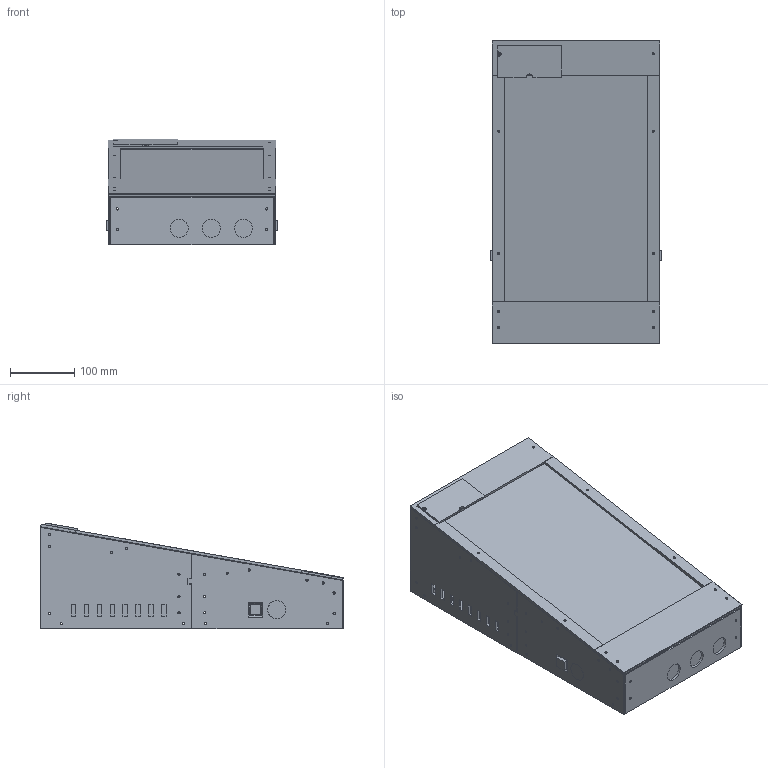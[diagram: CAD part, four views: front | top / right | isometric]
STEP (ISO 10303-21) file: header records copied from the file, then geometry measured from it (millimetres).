
FILE_DESCRIPTION(('Open CASCADE Model'),'2;1');
FILE_NAME('Open CASCADE Shape Model','2026-11-07T15:07:24',('Author'),( 'Open CASCADE'),'Open CASCADE STEP processor 7.8','Open CASCADE 7.8' ,'Unknown');
FILE_SCHEMA(('AUTOMOTIVE_DESIGN { 1 0 10303 214 1 1 1 1 }'));
Length unit declared in the file: millimetre
Products named in the file (67): Mini_VPin_Prototype_V1_11; left_front_wall; left_rear_wall; right_front_wall; right_rear_wall; front_button_panel; rear_vent_panel; corner_left_front_24; corner_left_front_56; corner_left_rear_24; corner_left_rear_128; corner_right_front_24; corner_right_front_56; corner_right_rear_24; corner_right_rear_128; splice_left; splice_right; floor_block_left_28; floor_block_left_218; floor_block_left_252; floor_block_left_442; floor_block_right_28; floor_block_right_218; floor_block_right_252; floor_block_right_442; bottom_front; bottom_rear; top_block_left_25; top_block_left_50; top_block_left_140; top_block_left_330; top_block_left_450; top_block_right_25; top_block_right_50; top_block_right_140; top_block_right_330; top_block_right_450; monitor_saddle_left_180; monitor_saddle_left_360; monitor_saddle_right_180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
Assembly tree (66 placements, depth 2):
  Mini_VPin_Prototype_V1_11
    left_front_wall
    left_rear_wall
    right_front_wall
    right_rear_wall
    front_button_panel
    rear_vent_panel
    corner_left_front_24
    corner_left_front_56
    corner_left_rear_24
    corner_left_rear_128
    corner_right_front_24
    corner_right_front_56
    corner_right_rear_24
    corner_right_rear_128
    splice_left
    splice_right
    floor_block_left_28
    floor_block_left_218
    floor_block_left_252
    floor_block_left_442
    floor_block_right_28
    floor_block_right_218
    floor_block_right_252
    floor_block_right_442
    bottom_front
    bottom_rear
    top_block_left_25
    top_block_left_50
    top_block_left_140
    top_block_left_330
    top_block_left_450
    top_block_right_25
    top_block_right_50
    top_block_right_140
    top_block_right_330
    top_block_right_450
    monitor_saddle_left_180
    monitor_saddle_left_360
    monitor_saddle_right_180
    monitor_saddle_right_360
    bezel_left_one_piece
    bezel_right_a1_a2
    front_cable_lid
    rear_control_deck
    control_hatch
    REFERENCE_monitor_12mm_envelope
    REFERENCE_PC_allowance_ports_face_front
    REFERENCE_0_front_button_110
    REFERENCE_1_front_button_160
    REFERENCE_2_front_button_210
    REFERENCE_3_left_flipper_barrel_D27.8
    REFERENCE_4_left_flipper_nut_D40_x5
    REFERENCE_5_left_flipper_body_and_wiring_40x40
    REFERENCE_6_left_assumed_MX_plate_stem_14.0
    REFERENCE_7_left_assumed_MX_body_clip_and_wiring_allowance
    REFERENCE_8_left_assumed_MX_upper_housing_16.4
    REFERENCE_9_right_flipper_barrel_D27.8
    REFERENCE_10_right_flipper_nut_D40_x5
    REFERENCE_11_right_flipper_body_and_wiring_40x40
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Bounding box: 267 x 470.54 x 164.59 mm (x, y, z)
Volume: 7302792 mm3; surface area: 1393629 mm2
Topology: 66 solids, 66 shells, 1121 faces, 2863 edges, 1906 vertices
Faces by surface type: plane 900, cylinder 195, extrusion 20, bspline 4, cone 2
Full cylindrical faces by diameter (mm): 3.4 x152, 4.5 x4, 6 x2, 6.4 x2, 27.8 x2, 28 x5, 40 x2
Entity records: 83628 total; most frequent: CARTESIAN_POINT 23910, DIRECTION 10481, VECTOR 6985, LINE 6965, ORIENTED_EDGE 5726, PCURVE 5726, DEFINITIONAL_REPRESENTATION 5726, EDGE_CURVE 2863
